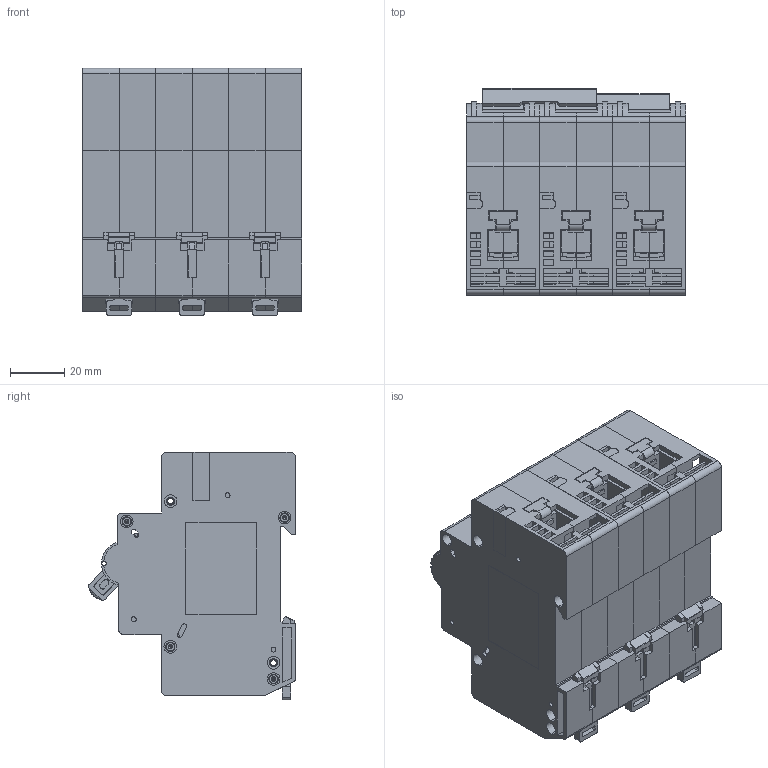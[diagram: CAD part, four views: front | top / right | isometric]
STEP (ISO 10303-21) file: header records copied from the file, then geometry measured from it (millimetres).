
FILE_DESCRIPTION (( 'STEP AP214' ), '1' );
FILE_NAME ('OptiDin BM125 2X-ÍÐ230.STEP', '2023-04-17T13:52:18', ( '' ), ( '' ), 'SwSTEP 2.0', 'SolidWorks 2018', '' );
FILE_SCHEMA (( 'AUTOMOTIVE_DESIGN' ));
Length unit declared in the file: millimetre
Products named in the file (26): _________ ____.000000.001.STEP; _____ ____.746442.007_2-_.STEP; _______ ____.000000.002.STEP; ________ ____.000000.000____ ______.STEP; ________ _____ ____.000000.000.STEP; ___________ ______________ OptiDin BM125 1X ____.641463.001.STEP; ________ ____.754312.171.STEP; _________ ____.000000.002.STEP; ___________ ______________ OptiDin BM125 2X ____.641473.001.STEP; _______ ____.000000.000-0.STEP; _____ ____.000000.002.STEP; _____ _______ ____.000000.000.STEP; ____ ____.000000.000.STEP; _________ ____.000000.000.STEP; OptiDin BM125 2X-迖230.STEP; ________ ____.758331.008_3-_.STEP; _____ ____.715311.079.STEP; OptiDin BM125 2X-迖230; Çàù¸ëêà ÃÆÈÊ.741358.040; ______ ___________ ____.711121.004.STEP; _______ ____.000000.000-1.STEP; ___________ ______________ OptiDin BM125 __ ____.641463.000.STEP; _____ ____.000000.000.STEP; _____ ______ ____.000000.000.STEP; _______ ____.000000.000.STEP; ________ ______ ____.000000.000.STEP
Assembly tree (68 placements, depth 6):
  OptiDin BM125 2X-迖230
    OptiDin BM125 2X-迖230.STEP
      ___________ ______________ OptiDin BM125 2X ____.641473.001.STEP
        _________ ____.000000.000.STEP
          _________ ____.000000.002.STEP
          _________ ____.000000.001.STEP
        ___________ ______________ OptiDin BM125 1X ____.641463.001.STEP
          _________ ____.000000.000.STEP
            _________ ____.000000.002.STEP
            _________ ____.000000.001.STEP
          ________ _____ ____.000000.000.STEP
          ________ ______ ____.000000.000.STEP
          _______ ____.000000.002.STEP
          _____ ______ ____.000000.000.STEP
          _____ _______ ____.000000.000.STEP
          ____ ____.000000.000.STEP  x2
          _______ ____.000000.000.STEP  x2
          _____ ____.000000.000.STEP
          _______ ____.000000.000-0.STEP
          ________ ____.000000.000____ ______.STEP  x4
          ________ ____.754312.171.STEP
        ________ _____ ____.000000.000.STEP
        ________ ______ ____.000000.000.STEP
        _______ ____.000000.002.STEP
        _____ ______ ____.000000.000.STEP
        _____ _______ ____.000000.000.STEP
        ____ ____.000000.000.STEP  x2
        _______ ____.000000.000.STEP  x2
        _____ ____.000000.000.STEP
        _______ ____.000000.000-0.STEP
        _______ ____.000000.000-1.STEP
        ________ ____.000000.000____ ______.STEP  x4
        _____ ____.746442.007_2-_.STEP
        ______ ___________ ____.711121.004.STEP  x2
        ________ ____.754312.171.STEP
        _____ ____.715311.079.STEP
      ___________ ______________ OptiDin BM125 __ ____.641463.000.STEP
        _________ ____.000000.000.STEP
          _________ ____.000000.002.STEP
          _________ ____.000000.001.STEP
        ________ _____ ____.000000.000.STEP
        ________ ______ ____.000000.000.STEP
        _______ ____.000000.002.STEP
        _____ ______ ____.000000.000.STEP
        _____ _______ ____.000000.000.STEP
        ____ ____.000000.000.STEP  x2
        _______ ____.000000.000.STEP  x2
        _____ ____.000000.002.STEP
        _______ ____.000000.000-0.STEP
        ________ ____.000000.000____ ______.STEP  x4
        ______ ___________ ____.711121.004.STEP  x2
        _____ ____.715311.079.STEP
      ________ ____.758331.008_3-_.STEP  x2
    Çàù¸ëêà ÃÆÈÊ.741358.040  x2
Bounding box: 81.1 x 76.52 x 91.6 mm (x, y, z)
Volume: 165302.6 mm3; surface area: 203422.7 mm2
Topology: 65 solids, 66 shells, 4497 faces, 11917 edges, 7651 vertices
Faces by surface type: plane 3087, cylinder 1181, torus 184, cone 45
Entity records: 50674 total; most frequent: CARTESIAN_POINT 8856, ORIENTED_EDGE 8300, DIRECTION 8274, EDGE_CURVE 4150, LINE 3070, VECTOR 3070, VERTEX_POINT 2696, AXIS2_PLACEMENT_3D 2602
